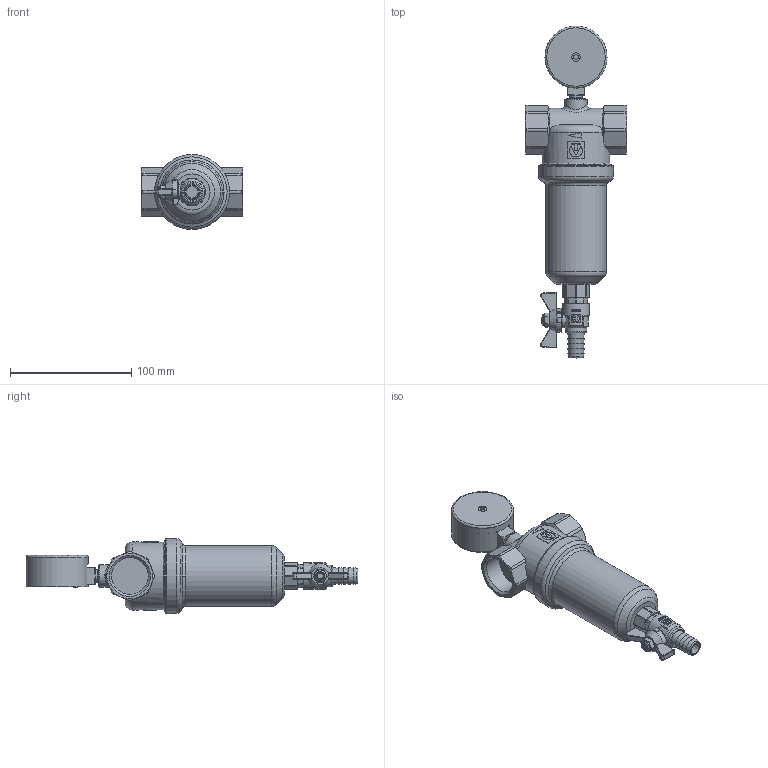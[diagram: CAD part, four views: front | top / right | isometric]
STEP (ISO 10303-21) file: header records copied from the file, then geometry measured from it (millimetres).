
FILE_DESCRIPTION(('STEP AP203'), '1');
FILE_NAME('VT.389.N.06', '', ('UNSPECIFIED'), ('UNSPECIFIED'), 'C3D Converter', 'C3D Toolkit', '');
FILE_SCHEMA(('CONFIG_CONTROL_DESIGN'));
Length unit declared in the file: millimetre
Products named in the file (1): ВР.061146.027.000 СБ
Bounding box: 84 x 274.3 x 62 mm (x, y, z)
Volume: 349022.6 mm3; surface area: 66151.3 mm2
Topology: 1 solids, 5 shells, 984 faces, 2549 edges, 1654 vertices
Faces by surface type: plane 380, extrusion 305, cylinder 167, cone 86, torus 43, bspline 3
Full cylindrical faces by diameter (mm): 1 x1, 1.1 x1, 1.7 x2, 2.5 x3, 7.95 x1, 9.5 x1, 10 x1, 10.6 x1, 11 x1, 12.5 x1, 13.157 x1, 18 x1, 18.2 x1, 22 x1, 30.292 x2, 47.8 x1, 48 x1, 48.8 x1, 49.7 x1, 50 x1, 50.3 x1, 51.3 x1, 56 x1, 58 x1, 62 x1
Entity records: 44563 total; most frequent: CARTESIAN_POINT 22344, ORIENTED_EDGE 4978, DIRECTION 3676, EDGE_CURVE 2489, VERTEX_POINT 1653, VECTOR 1298, AXIS2_PLACEMENT_3D 1189, B_SPLINE_CURVE_WITH_KNOTS 1167
